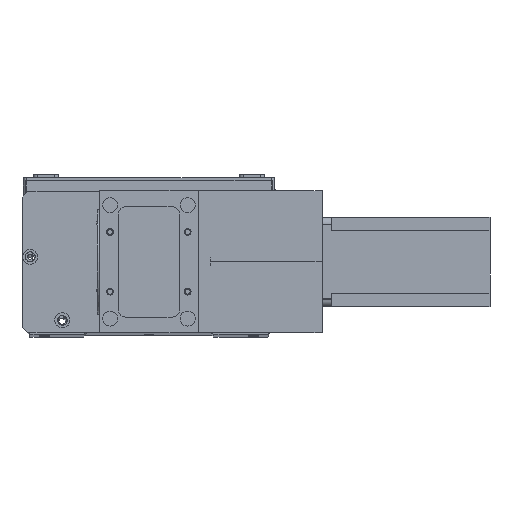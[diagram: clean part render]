
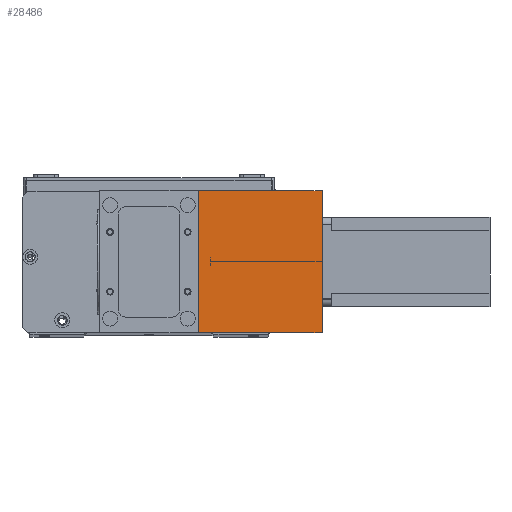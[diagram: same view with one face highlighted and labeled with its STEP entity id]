
A CAD part, top view. The second image highlights one B-rep face of the part: STEP entity #28486.
In plain terms, the highlighted planar face has unit normal (0, 0, 1) as drawn and (1, 0, 0) by its records, which use the part's own axes.
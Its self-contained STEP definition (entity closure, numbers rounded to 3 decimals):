
#285 = LINE ( 'NONE', #5101, #28115 ) ;
#1405 = VECTOR ( 'NONE', #19166, 1000. ) ;
#2726 = DIRECTION ( 'NONE',  ( 0., 0., -1. ) ) ;
#2857 = DIRECTION ( 'NONE',  ( 0., 1., 0. ) ) ;
#2883 = CARTESIAN_POINT ( 'NONE',  ( 82., 0., 0. ) ) ;
#2924 = VERTEX_POINT ( 'NONE', #22178 ) ;
#3558 = EDGE_CURVE ( 'NONE', #21745, #2924, #10943, .T. ) ;
#3905 = EDGE_CURVE ( 'NONE', #2924, #11802, #19371, .T. ) ;
#4110 = EDGE_CURVE ( 'NONE', #17411, #11802, #19030, .T. ) ;
#4281 = EDGE_LOOP ( 'NONE', ( #10152, #25440, #28379, #9093 ) ) ;
#4471 = EDGE_CURVE ( 'NONE', #21745, #17411, #285, .T. ) ;
#4975 = DIRECTION ( 'NONE',  ( 0., 1., 0. ) ) ;
#5048 = VECTOR ( 'NONE', #2726, 1000. ) ;
#5101 = CARTESIAN_POINT ( 'NONE',  ( 82., 0., 83. ) ) ;
#7720 = CARTESIAN_POINT ( 'NONE',  ( 82., 0., 83. ) ) ;
#8213 = CARTESIAN_POINT ( 'NONE',  ( 82., 0., 83. ) ) ;
#9093 = ORIENTED_EDGE ( 'NONE', *, *, #3558, .T. ) ;
#10115 = CARTESIAN_POINT ( 'NONE',  ( 82., 95., 83. ) ) ;
#10152 = ORIENTED_EDGE ( 'NONE', *, *, #3905, .T. ) ;
#10407 = DIRECTION ( 'NONE',  ( 0., 0., 1. ) ) ;
#10943 = LINE ( 'NONE', #7720, #5048 ) ;
#11738 = CARTESIAN_POINT ( 'NONE',  ( 82., 0., 83. ) ) ;
#11802 = VERTEX_POINT ( 'NONE', #20906 ) ;
#13620 = VECTOR ( 'NONE', #2857, 1000. ) ;
#14045 = CARTESIAN_POINT ( 'NONE',  ( 82., 95., 83. ) ) ;
#16838 = PLANE ( 'NONE',  #17112 ) ;
#17112 = AXIS2_PLACEMENT_3D ( 'NONE', #8213, #23433, #10407 ) ;
#17411 = VERTEX_POINT ( 'NONE', #14045 ) ;
#19030 = LINE ( 'NONE', #10115, #1405 ) ;
#19166 = DIRECTION ( 'NONE',  ( 0., 0., -1. ) ) ;
#19371 = LINE ( 'NONE', #2883, #13620 ) ;
#19900 = FACE_OUTER_BOUND ( 'NONE', #4281, .T. ) ;
#20906 = CARTESIAN_POINT ( 'NONE',  ( 82., 95., 0. ) ) ;
#21745 = VERTEX_POINT ( 'NONE', #11738 ) ;
#22178 = CARTESIAN_POINT ( 'NONE',  ( 82., 0., 0. ) ) ;
#23433 = DIRECTION ( 'NONE',  ( -1., 0., 0. ) ) ;
#25440 = ORIENTED_EDGE ( 'NONE', *, *, #4110, .F. ) ;
#28115 = VECTOR ( 'NONE', #4975, 1000. ) ;
#28379 = ORIENTED_EDGE ( 'NONE', *, *, #4471, .F. ) ;
#28486 = ADVANCED_FACE ( 'NONE', ( #19900 ), #16838, .F. ) ;
